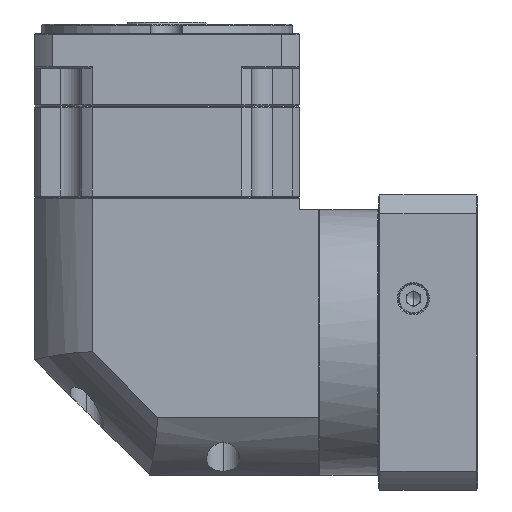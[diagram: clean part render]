
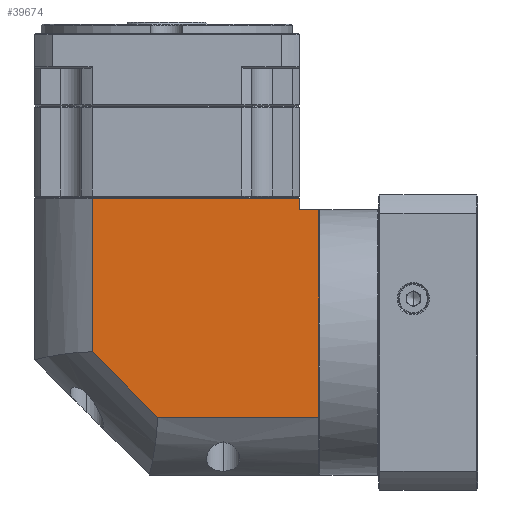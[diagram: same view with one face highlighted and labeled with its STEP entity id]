
A CAD part, left-side view. The second image highlights one B-rep face of the part: STEP entity #39674.
In plain terms, the highlighted planar face has unit normal (-1, 0, 0).
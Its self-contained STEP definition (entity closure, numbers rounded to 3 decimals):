
#2286 = DIRECTION ( 'NONE',  ( 0., 1., 0. ) ) ;
#5334 = CARTESIAN_POINT ( 'NONE',  ( -270.575, -111.371, 24.913 ) ) ;
#9114 = LINE ( 'NONE', #24932, #78215 ) ;
#10521 = ORIENTED_EDGE ( 'NONE', *, *, #76840, .F. ) ;
#16047 = VERTEX_POINT ( 'NONE', #137961 ) ;
#16898 = VECTOR ( 'NONE', #162927, 1000. ) ;
#17632 = VECTOR ( 'NONE', #45025, 1000. ) ;
#24932 = CARTESIAN_POINT ( 'NONE',  ( -270.575, -21.471, 36.413 ) ) ;
#33838 = CARTESIAN_POINT ( 'NONE',  ( -270.575, -21.471, 29.913 ) ) ;
#35893 = LINE ( 'NONE', #77680, #66403 ) ;
#37960 = DIRECTION ( 'NONE',  ( 0., 0., 1. ) ) ;
#39674 = ADVANCED_FACE ( 'NONE', ( #115600 ), #157148, .F. ) ;
#42061 = AXIS2_PLACEMENT_3D ( 'NONE', #157702, #80100, #2286 ) ;
#42474 = EDGE_CURVE ( 'NONE', #146693, #16047, #167475, .T. ) ;
#43797 = LINE ( 'NONE', #58983, #78469 ) ;
#44076 = ORIENTED_EDGE ( 'NONE', *, *, #42474, .F. ) ;
#44547 = VECTOR ( 'NONE', #76946, 1000. ) ;
#45025 = DIRECTION ( 'NONE',  ( 0., 1., 0. ) ) ;
#45077 = EDGE_CURVE ( 'NONE', #149275, #56506, #35893, .T. ) ;
#53332 = EDGE_LOOP ( 'NONE', ( #65530, #44076, #10521, #124804, #55426, #53868, #151510 ) ) ;
#53514 = CARTESIAN_POINT ( 'NONE',  ( -270.575, -49.81, -64.986 ) ) ;
#53868 = ORIENTED_EDGE ( 'NONE', *, *, #45077, .T. ) ;
#55426 = ORIENTED_EDGE ( 'NONE', *, *, #75960, .T. ) ;
#56506 = VERTEX_POINT ( 'NONE', #132299 ) ;
#58125 = CARTESIAN_POINT ( 'NONE',  ( -270.575, -49.81, -64.986 ) ) ;
#58983 = CARTESIAN_POINT ( 'NONE',  ( -270.575, -111.371, 24.913 ) ) ;
#65530 = ORIENTED_EDGE ( 'NONE', *, *, #143998, .F. ) ;
#66403 = VECTOR ( 'NONE', #155325, 1000. ) ;
#66640 = DIRECTION ( 'NONE',  ( 0., 0.707, 0.707 ) ) ;
#68464 = CARTESIAN_POINT ( 'NONE',  ( -270.575, -119.771, 24.913 ) ) ;
#71600 = EDGE_CURVE ( 'NONE', #76519, #56506, #116320, .T. ) ;
#75960 = EDGE_CURVE ( 'NONE', #146629, #149275, #43797, .T. ) ;
#76519 = VERTEX_POINT ( 'NONE', #33838 ) ;
#76840 = EDGE_CURVE ( 'NONE', #130403, #146693, #117054, .T. ) ;
#76946 = DIRECTION ( 'NONE',  ( 0., 0., -1. ) ) ;
#77680 = CARTESIAN_POINT ( 'NONE',  ( -270.575, -111.371, -90.087 ) ) ;
#78215 = VECTOR ( 'NONE', #37960, 1000. ) ;
#78469 = VECTOR ( 'NONE', #136735, 1000. ) ;
#80100 = DIRECTION ( 'NONE',  ( 1., 0., 0. ) ) ;
#85778 = CARTESIAN_POINT ( 'NONE',  ( -270.575, 3.629, 29.913 ) ) ;
#113496 = EDGE_CURVE ( 'NONE', #146629, #130403, #144056, .T. ) ;
#113754 = CARTESIAN_POINT ( 'NONE',  ( -270.575, -119.771, -64.986 ) ) ;
#115600 = FACE_OUTER_BOUND ( 'NONE', #53332, .T. ) ;
#116320 = LINE ( 'NONE', #85778, #16898 ) ;
#117054 = LINE ( 'NONE', #122737, #17632 ) ;
#122737 = CARTESIAN_POINT ( 'NONE',  ( -270.575, 3.629, -64.986 ) ) ;
#124804 = ORIENTED_EDGE ( 'NONE', *, *, #113496, .F. ) ;
#130403 = VERTEX_POINT ( 'NONE', #113754 ) ;
#132299 = CARTESIAN_POINT ( 'NONE',  ( -270.575, -111.371, 29.913 ) ) ;
#132859 = VECTOR ( 'NONE', #66640, 1000. ) ;
#136735 = DIRECTION ( 'NONE',  ( 0., 1., 0. ) ) ;
#137961 = CARTESIAN_POINT ( 'NONE',  ( -270.575, -21.471, -36.648 ) ) ;
#143998 = EDGE_CURVE ( 'NONE', #16047, #76519, #9114, .T. ) ;
#144056 = LINE ( 'NONE', #154587, #44547 ) ;
#146629 = VERTEX_POINT ( 'NONE', #68464 ) ;
#146693 = VERTEX_POINT ( 'NONE', #58125 ) ;
#149275 = VERTEX_POINT ( 'NONE', #5334 ) ;
#151510 = ORIENTED_EDGE ( 'NONE', *, *, #71600, .F. ) ;
#154587 = CARTESIAN_POINT ( 'NONE',  ( -270.575, -119.771, 36.413 ) ) ;
#155325 = DIRECTION ( 'NONE',  ( 0., 0., 1. ) ) ;
#157148 = PLANE ( 'NONE',  #42061 ) ;
#157702 = CARTESIAN_POINT ( 'NONE',  ( -270.575, 3.629, 36.413 ) ) ;
#162927 = DIRECTION ( 'NONE',  ( 0., -1., 0. ) ) ;
#167475 = LINE ( 'NONE', #53514, #132859 ) ;
